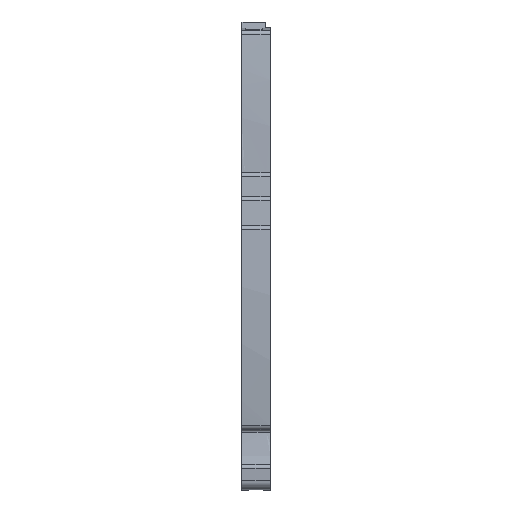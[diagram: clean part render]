
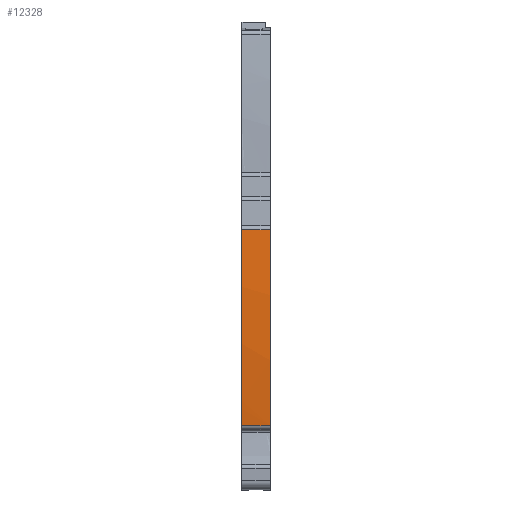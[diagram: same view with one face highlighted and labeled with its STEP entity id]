
A CAD part, front view. The second image highlights one B-rep face of the part: STEP entity #12328.
In plain terms, the highlighted cylindrical face has radius 202 mm (diameter 404 mm), a partial arc.
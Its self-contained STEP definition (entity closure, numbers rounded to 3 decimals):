
#2510=AXIS2_PLACEMENT_3D('Circle Axis2P3D',#2508,#2509,$) ;
#2517=AXIS2_PLACEMENT_3D('Circle Axis2P3D',#2515,#2516,$) ;
#2524=AXIS2_PLACEMENT_3D('Circle Axis2P3D',#2522,#2523,$) ;
#3748=AXIS2_PLACEMENT_3D('Circle Axis2P3D',#3746,#3747,$) ;
#12313=AXIS2_PLACEMENT_3D('Cylinder Axis2P3D',#12310,#12311,#12312) ;
#2505=CARTESIAN_POINT('Vertex',(0.,1.531,13.327)) ;
#2508=CARTESIAN_POINT('Axis2P3D Location',(0.,202.,38.15)) ;
#2512=CARTESIAN_POINT('Vertex',(0.,1.516,13.45)) ;
#2515=CARTESIAN_POINT('Axis2P3D Location',(0.,202.,38.15)) ;
#2519=CARTESIAN_POINT('Vertex',(0.,0.952,18.566)) ;
#2522=CARTESIAN_POINT('Axis2P3D Location',(0.,202.,38.15)) ;
#2526=CARTESIAN_POINT('Vertex',(0.,0.609,53.828)) ;
#3743=CARTESIAN_POINT('Vertex',(5.95,0.609,53.828)) ;
#3746=CARTESIAN_POINT('Axis2P3D Location',(5.95,202.,38.15)) ;
#3750=CARTESIAN_POINT('Vertex',(5.95,1.531,13.327)) ;
#12297=CARTESIAN_POINT('Line Origine',(9.69,1.531,13.327)) ;
#12310=CARTESIAN_POINT('Axis2P3D Location',(3.16,202.,38.15)) ;
#12315=CARTESIAN_POINT('Line Origine',(3.16,0.609,53.828)) ;
#2509=DIRECTION('Axis2P3D Direction',(1.,0.,0.)) ;
#2516=DIRECTION('Axis2P3D Direction',(1.,0.,0.)) ;
#2523=DIRECTION('Axis2P3D Direction',(1.,0.,0.)) ;
#3747=DIRECTION('Axis2P3D Direction',(1.,0.,0.)) ;
#12298=DIRECTION('Vector Direction',(1.,0.,0.)) ;
#12311=DIRECTION('Axis2P3D Direction',(-1.,0.,0.)) ;
#12312=DIRECTION('Axis2P3D XDirection',(0.,-0.992,-0.123)) ;
#12316=DIRECTION('Vector Direction',(-1.,0.,0.)) ;
#12299=VECTOR('Line Direction',#12298,1.) ;
#12317=VECTOR('Line Direction',#12316,1.) ;
#12321=ORIENTED_EDGE('',*,*,#2528,.F.) ;
#12322=ORIENTED_EDGE('',*,*,#2521,.F.) ;
#12323=ORIENTED_EDGE('',*,*,#2514,.F.) ;
#12324=ORIENTED_EDGE('',*,*,#12301,.F.) ;
#12325=ORIENTED_EDGE('',*,*,#3752,.F.) ;
#12326=ORIENTED_EDGE('',*,*,#12319,.T.) ;
#12328=ADVANCED_FACE('KLEMME',(#12327),#12314,.T.) ;
#2511=CIRCLE('generated circle',#2510,202.) ;
#2518=CIRCLE('generated circle',#2517,202.) ;
#2525=CIRCLE('generated circle',#2524,202.) ;
#3749=CIRCLE('generated circle',#3748,202.) ;
#12314=CYLINDRICAL_SURFACE('generated cylinder',#12313,202.) ;
#2514=EDGE_CURVE('',#2506,#2513,#2511,.F.) ;
#2521=EDGE_CURVE('',#2513,#2520,#2518,.F.) ;
#2528=EDGE_CURVE('',#2520,#2527,#2525,.F.) ;
#3752=EDGE_CURVE('',#3744,#3751,#3749,.T.) ;
#12301=EDGE_CURVE('',#3751,#2506,#12300,.F.) ;
#12319=EDGE_CURVE('',#3744,#2527,#12318,.T.) ;
#12320=EDGE_LOOP('',(#12321,#12322,#12323,#12324,#12325,#12326)) ;
#12327=FACE_OUTER_BOUND('',#12320,.T.) ;
#12300=LINE('Line',#12297,#12299) ;
#12318=LINE('Line',#12315,#12317) ;
#2506=VERTEX_POINT('',#2505) ;
#2513=VERTEX_POINT('',#2512) ;
#2520=VERTEX_POINT('',#2519) ;
#2527=VERTEX_POINT('',#2526) ;
#3744=VERTEX_POINT('',#3743) ;
#3751=VERTEX_POINT('',#3750) ;
